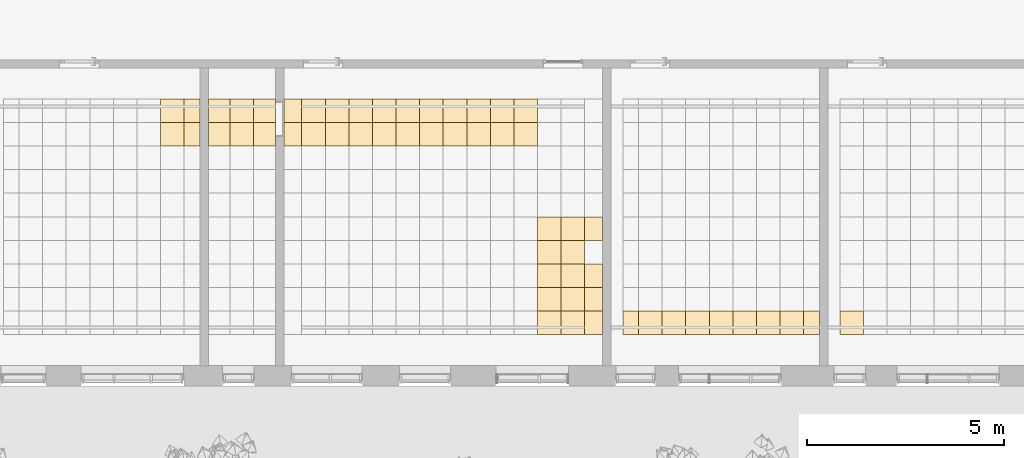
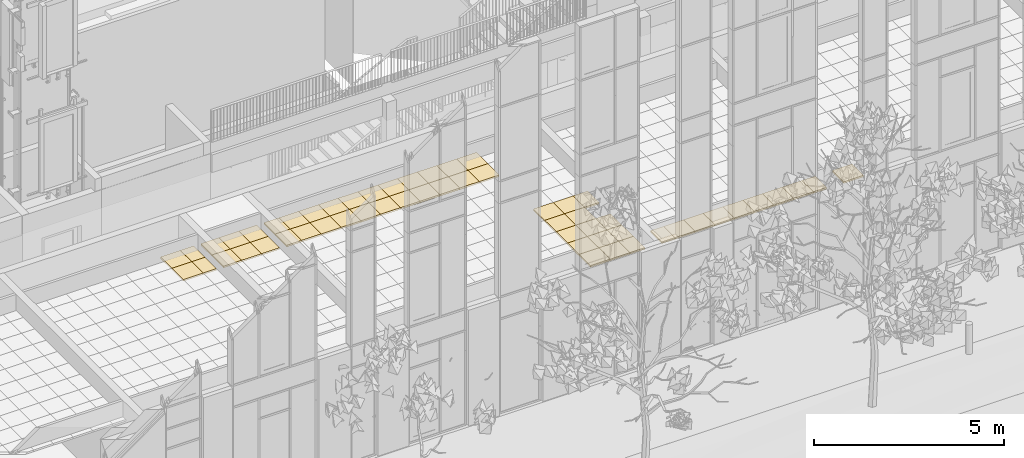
# One storey, part 191 of 246: 56 coverings.
"""IFC2X3 building model written with IfcOpenShell, lengths in millimetres."""

from ifc_helpers import new_model, entity, si_unit, converted_unit, derived_unit, money_unit, direction, frame, origin_with_axes, place, context, subcontext, project, spatial, faceted_brep, material, material_list, type_object, element, save


model = new_model("IFC2X3")

# Units and contexts
model_context = context("Model", 3, precision=0.01, world=origin_with_axes(), true_north=direction((0.0, 1.0)))
body_context = subcontext(model_context, "Body", "Model", "MODEL_VIEW")
ifc_project = project(units=[si_unit("LENGTHUNIT", "METRE", prefix="MILLI"), si_unit("AREAUNIT", "SQUARE_METRE"), si_unit("VOLUMEUNIT", "CUBIC_METRE"), converted_unit("PLANEANGLEUNIT", "DEGREE", entity("IfcPlaneAngleMeasure", 0.0174532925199), si_unit("PLANEANGLEUNIT", "RADIAN"), dimensions=[0, 0, 0, 0, 0, 0, 0]), si_unit("SOLIDANGLEUNIT", "STERADIAN"), money_unit("EUR"), converted_unit("TIMEUNIT", "Year", entity("IfcTimeMeasure", 31556926.0), si_unit("TIMEUNIT", "SECOND"), dimensions=[0, 0, 1, 0, 0, 0, 0]), si_unit("MASSUNIT", "GRAM", prefix="KILO"), si_unit("THERMODYNAMICTEMPERATUREUNIT", "DEGREE_CELSIUS"), si_unit("LUMINOUSINTENSITYUNIT", "LUMEN"), si_unit("ENERGYUNIT", "JOULE", prefix="MEGA"), derived_unit("THERMALCONDUCTANCEUNIT", [(si_unit("POWERUNIT", "WATT"), 1), (si_unit("LENGTHUNIT", "METRE"), -1), (si_unit("THERMODYNAMICTEMPERATUREUNIT", "KELVIN"), -1)]), derived_unit("SPECIFICHEATCAPACITYUNIT", [(si_unit("ENERGYUNIT", "JOULE"), 1), (si_unit("MASSUNIT", "GRAM", prefix="KILO"), -1), (si_unit("THERMODYNAMICTEMPERATUREUNIT", "KELVIN"), -1)]), derived_unit("MASSDENSITYUNIT", [(si_unit("MASSUNIT", "GRAM", prefix="KILO"), 1), (si_unit("VOLUMEUNIT", "CUBIC_METRE"), -1)])], contexts=[model_context])

# Site, building, storey
site_placement = place(None, origin_with_axes())
site = spatial("IfcSite", under=ifc_project, at=site_placement, Name="L.Koidula tn 11b", CompositionType="ELEMENT")
building_placement = place(site_placement, origin_with_axes())
building = spatial("IfcBuilding", under=site, at=building_placement, Name="Rakvere Riigigümnaasium", CompositionType="ELEMENT")
storey_placement = place(building_placement, origin_with_axes())
storey = spatial("IfcBuildingStorey", under=building, at=storey_placement, Name="1.korrus 0,00", CompositionType="ELEMENT", Elevation=0.0)

# Coverings
ifc_material_1 = material(Name="Karkass")
ifc_material_2 = material(Name="Kipsplaat")
ifc_material_list = material_list([ifc_material_1, ifc_material_2])
covering_type = type_object("IfcCoveringType", Name="SA-LV-Kips-moodul 55", PredefinedType="CEILING")
covering_1_placement = place(storey_placement, frame((50789.9766386, 11690.4544728, 2750.0), z_axis=(0.0, 0.0, 1.0), x_axis=(1.0, 0.0, 0.0)))
element("IfcCovering", 1, at=covering_1_placement, inside=storey, type_object=covering_type, material=ifc_material_list, Name="L-03", PredefinedType="CEILING", context=body_context, shape_type="Brep", body=[
    faceted_brep([(550.0, 0.0, 12.5), (550.0, 0.0, 54.5), (0.0, 0.0, 54.5), (0.0, 0.0, 12.5), (550.0, 600.0, 12.5), (550.0, 600.0, 54.5), (0.0, 600.0, 54.5), (0.0, 600.0, 12.5)], [[[0, 1, 2, 3]], [[4, 5, 1, 0]], [[2, 1, 5, 6]], [[3, 2, 6, 7]], [[3, 7, 4, 0]], [[7, 6, 5, 4]]]),
    faceted_brep([(0.0, 0.0, 0.0), (550.0, 0.0, 0.0), (550.0, 0.0, 12.5), (0.0, 0.0, 12.5), (0.0, 600.0, 0.0), (550.0, 600.0, 0.0), (550.0, 600.0, 12.5), (0.0, 600.0, 12.5)], [[[0, 1, 2, 3]], [[0, 4, 5, 1]], [[1, 5, 6, 2]], [[3, 2, 6, 7]], [[4, 0, 3, 7]], [[5, 4, 7, 6]]]),
])
for number, where, z_axis, x_axis, name in (
    (2, (51339.9766386, 11690.4544728, 2750.0), (0.0, 0.0, 1.0), (1.0, 0.0, 0.0), "L-03"),
    (3, (51339.9766386, 11090.4544728, 2750.0), (0.0, 0.0, 1.0), (1.0, 0.0, 0.0), "L-03"),
):
    element("IfcCovering", number, at=place(storey_placement, frame(where, z_axis=z_axis, x_axis=x_axis)), inside=storey, type_object=covering_type, material=ifc_material_list, Name=name, PredefinedType="CEILING", context=body_context, shape_type="Brep", body=[
        faceted_brep([(600.0, 0.0, 12.5), (600.0, 0.0, 54.5), (0.0, 0.0, 54.5), (0.0, 0.0, 12.5), (600.0, 600.0, 12.5), (600.0, 600.0, 54.5), (0.0, 600.0, 54.5), (0.0, 600.0, 12.5)], [[[0, 1, 2, 3]], [[4, 5, 1, 0]], [[2, 1, 5, 6]], [[3, 2, 6, 7]], [[3, 7, 4, 0]], [[7, 6, 5, 4]]]),
        faceted_brep([(0.0, 0.0, 0.0), (600.0, 0.0, 0.0), (600.0, 0.0, 12.5), (0.0, 0.0, 12.5), (0.0, 600.0, 0.0), (600.0, 600.0, 0.0), (600.0, 600.0, 12.5), (0.0, 600.0, 12.5)], [[[0, 1, 2, 3]], [[0, 4, 5, 1]], [[1, 5, 6, 2]], [[3, 2, 6, 7]], [[4, 0, 3, 7]], [[5, 4, 7, 6]]]),
    ])
for number, where, z_axis, x_axis, name in (
    (4, (50789.9766386, 11090.4544728, 2750.0), (0.0, 0.0, 1.0), (1.0, 0.0, 0.0), "L-03"),
    (5, (51939.9766386, 11690.4544728, 2750.0), (0.0, 0.0, 1.0), (1.0, 0.0, 0.0), "L-03"),
    (6, (51939.9766386, 11090.4544728, 2750.0), (0.0, 0.0, 1.0), (1.0, 0.0, 0.0), "L-03"),
):
    element("IfcCovering", number, at=place(storey_placement, frame(where, z_axis=z_axis, x_axis=x_axis)), inside=storey, type_object=covering_type, material=ifc_material_list, Name=name, PredefinedType="CEILING", context=body_context, shape_type="Brep", body=[
        faceted_brep([(550.0, 0.0, 12.5), (550.0, 0.0, 54.5), (0.0, 0.0, 54.5), (0.0, 0.0, 12.5), (550.0, 600.0, 12.5), (550.0, 600.0, 54.5), (0.0, 600.0, 54.5), (0.0, 600.0, 12.5)], [[[0, 1, 2, 3]], [[4, 5, 1, 0]], [[2, 1, 5, 6]], [[3, 2, 6, 7]], [[3, 7, 4, 0]], [[7, 6, 5, 4]]]),
        faceted_brep([(0.0, 0.0, 0.0), (550.0, 0.0, 0.0), (550.0, 0.0, 12.5), (0.0, 0.0, 12.5), (0.0, 600.0, 0.0), (550.0, 600.0, 0.0), (550.0, 600.0, 12.5), (0.0, 600.0, 12.5)], [[[0, 1, 2, 3]], [[0, 4, 5, 1]], [[1, 5, 6, 2]], [[3, 2, 6, 7]], [[4, 0, 3, 7]], [[5, 4, 7, 6]]]),
    ])
for number, where, z_axis, x_axis, name in (
    (7, (49569.6840899, 11090.4535941, 2750.0), (0.0, 0.0, 1.0), (1.0, 0.0, 0.0), "L-03"),
    (8, (49569.6840899, 11690.4535941, 2750.0), (0.0, 0.0, 1.0), (1.0, 0.0, 0.0), "L-03"),
):
    element("IfcCovering", number, at=place(storey_placement, frame(where, z_axis=z_axis, x_axis=x_axis)), inside=storey, type_object=covering_type, material=ifc_material_list, Name=name, PredefinedType="CEILING", context=body_context, shape_type="Brep", body=[
        faceted_brep([(599.999948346, 0.0, 12.5), (599.999948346, 0.0, 54.5), (0.0, 0.0, 54.5), (0.0, 0.0, 12.5), (599.999948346, 600.0, 12.5), (599.999948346, 600.0, 54.5), (0.0, 600.0, 54.5), (0.0, 600.0, 12.5)], [[[0, 1, 2, 3]], [[4, 5, 1, 0]], [[2, 1, 5, 6]], [[3, 2, 6, 7]], [[3, 7, 4, 0]], [[7, 6, 5, 4]]]),
        faceted_brep([(0.0, 0.0, 0.0), (599.999948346, 0.0, 0.0), (599.999948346, 0.0, 12.5), (0.0, 0.0, 12.5), (0.0, 600.0, 0.0), (599.999948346, 600.0, 0.0), (599.999948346, 600.0, 12.5), (0.0, 600.0, 12.5)], [[[0, 1, 2, 3]], [[0, 4, 5, 1]], [[1, 5, 6, 2]], [[3, 2, 6, 7]], [[4, 0, 3, 7]], [[5, 4, 7, 6]]]),
    ])
for number, where, z_axis, x_axis, name in (
    (9, (50169.6840382, 11090.4535941, 2750.0), (0.0, 0.0, 1.0), (1.0, 0.0, 0.0), "L-03"),
    (10, (50169.6840382, 11690.4535941, 2750.0), (0.0, 0.0, 1.0), (1.0, 0.0, 0.0), "L-03"),
):
    element("IfcCovering", number, at=place(storey_placement, frame(where, z_axis=z_axis, x_axis=x_axis)), inside=storey, type_object=covering_type, material=ifc_material_list, Name=name, PredefinedType="CEILING", context=body_context, shape_type="Brep", body=[
        faceted_brep([(399.999039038, 0.0, 12.5), (399.999039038, 0.0, 54.5), (0.0, 0.0, 54.5), (0.0, 0.0, 12.5), (399.999039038, 600.0, 12.5), (399.999039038, 600.0, 54.5), (0.0, 600.0, 54.5), (0.0, 600.0, 12.5)], [[[0, 1, 2, 3]], [[4, 5, 1, 0]], [[2, 1, 5, 6]], [[3, 2, 6, 7]], [[3, 7, 4, 0]], [[7, 6, 5, 4]]]),
        faceted_brep([(0.0, 0.0, 0.0), (399.999039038, 0.0, 0.0), (399.999039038, 0.0, 12.5), (0.0, 0.0, 12.5), (0.0, 600.0, 0.0), (399.999039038, 600.0, 0.0), (399.999039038, 600.0, 12.5), (0.0, 600.0, 12.5)], [[[0, 1, 2, 3]], [[0, 4, 5, 1]], [[1, 5, 6, 2]], [[3, 2, 6, 7]], [[4, 0, 3, 7]], [[5, 4, 7, 6]]]),
    ])
for number, where, z_axis, x_axis, name in (
    (11, (53159.6754629, 11090.4535941, 2750.0), (0.0, 0.0, 1.0), (1.0, 0.0, 0.0), "L-03"),
    (12, (53159.6754629, 11690.4535941, 2750.0), (0.0, 0.0, 1.0), (1.0, 0.0, 0.0), "L-03"),
):
    element("IfcCovering", number, at=place(storey_placement, frame(where, z_axis=z_axis, x_axis=x_axis)), inside=storey, type_object=covering_type, material=ifc_material_list, Name=name, PredefinedType="CEILING", context=body_context, shape_type="Brep", body=[
        faceted_brep([(599.999948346, 0.0, 12.5), (599.999948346, 0.0, 54.5), (0.0, 0.0, 54.5), (0.0, 0.0, 12.5), (599.999948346, 600.0, 12.5), (599.999948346, 600.0, 54.5), (0.0, 600.0, 54.5), (0.0, 600.0, 12.5)], [[[0, 1, 2, 3]], [[4, 5, 1, 0]], [[2, 1, 5, 6]], [[3, 2, 6, 7]], [[3, 7, 4, 0]], [[7, 6, 5, 4]]]),
        faceted_brep([(0.0, 0.0, 0.0), (599.999948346, 0.0, 0.0), (599.999948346, 0.0, 12.5), (0.0, 0.0, 12.5), (0.0, 600.0, 0.0), (599.999948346, 600.0, 0.0), (599.999948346, 600.0, 12.5), (0.0, 600.0, 12.5)], [[[0, 1, 2, 3]], [[0, 4, 5, 1]], [[1, 5, 6, 2]], [[3, 2, 6, 7]], [[4, 0, 3, 7]], [[5, 4, 7, 6]]]),
    ])
for number, where, z_axis, x_axis, name in (
    (13, (52709.9766386, 11090.4535941, 2750.0), (0.0, 0.0, 1.0), (1.0, 0.0, 0.0), "L-03"),
    (14, (52709.9766386, 11690.4535941, 2750.0), (0.0, 0.0, 1.0), (1.0, 0.0, 0.0), "L-03"),
):
    element("IfcCovering", number, at=place(storey_placement, frame(where, z_axis=z_axis, x_axis=x_axis)), inside=storey, type_object=covering_type, material=ifc_material_list, Name=name, PredefinedType="CEILING", context=body_context, shape_type="Brep", body=[
        faceted_brep([(449.698824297, 0.0, 12.5), (449.698824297, 0.0, 54.5), (0.0, 0.0, 54.5), (0.0, 0.0, 12.5), (449.698824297, 600.0, 12.5), (449.698824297, 600.0, 54.5), (0.0, 600.0, 54.5), (0.0, 600.0, 12.5)], [[[0, 1, 2, 3]], [[4, 5, 1, 0]], [[2, 1, 5, 6]], [[3, 2, 6, 7]], [[3, 7, 4, 0]], [[7, 6, 5, 4]]]),
        faceted_brep([(0.0, 0.0, 0.0), (449.698824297, 0.0, 0.0), (449.698824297, 0.0, 12.5), (0.0, 0.0, 12.5), (0.0, 600.0, 0.0), (449.698824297, 600.0, 0.0), (449.698824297, 600.0, 12.5), (0.0, 600.0, 12.5)], [[[0, 1, 2, 3]], [[0, 4, 5, 1]], [[1, 5, 6, 2]], [[3, 2, 6, 7]], [[4, 0, 3, 7]], [[5, 4, 7, 6]]]),
    ])
for number, where, z_axis, x_axis, name in (
    (15, (54359.6754112, 11090.4535941, 2750.0), (0.0, 0.0, 1.0), (1.0, 0.0, 0.0), "L-03"),
    (16, (54359.6754112, 11690.4535941, 2750.0), (0.0, 0.0, 1.0), (1.0, 0.0, 0.0), "L-03"),
):
    element("IfcCovering", number, at=place(storey_placement, frame(where, z_axis=z_axis, x_axis=x_axis)), inside=storey, type_object=covering_type, material=ifc_material_list, Name=name, PredefinedType="CEILING", context=body_context, shape_type="Brep", body=[
        faceted_brep([(599.999948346, 0.0, 12.5), (599.999948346, 0.0, 54.5), (0.0, 0.0, 54.5), (0.0, 0.0, 12.5), (599.999948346, 600.0, 12.5), (599.999948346, 600.0, 54.5), (0.0, 600.0, 54.5), (0.0, 600.0, 12.5)], [[[0, 1, 2, 3]], [[4, 5, 1, 0]], [[2, 1, 5, 6]], [[3, 2, 6, 7]], [[3, 7, 4, 0]], [[7, 6, 5, 4]]]),
        faceted_brep([(0.0, 0.0, 0.0), (599.999948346, 0.0, 0.0), (599.999948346, 0.0, 12.5), (0.0, 0.0, 12.5), (0.0, 600.0, 0.0), (599.999948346, 600.0, 0.0), (599.999948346, 600.0, 12.5), (0.0, 600.0, 12.5)], [[[0, 1, 2, 3]], [[0, 4, 5, 1]], [[1, 5, 6, 2]], [[3, 2, 6, 7]], [[4, 0, 3, 7]], [[5, 4, 7, 6]]]),
    ])
for number, where, z_axis, x_axis, name in (
    (17, (53759.6754112, 11090.4535941, 2750.0), (0.0, 0.0, 1.0), (1.0, 0.0, 0.0), "L-03"),
    (18, (53759.6754112, 11690.4535941, 2750.0), (0.0, 0.0, 1.0), (1.0, 0.0, 0.0), "L-03"),
):
    element("IfcCovering", number, at=place(storey_placement, frame(where, z_axis=z_axis, x_axis=x_axis)), inside=storey, type_object=covering_type, material=ifc_material_list, Name=name, PredefinedType="CEILING", context=body_context, shape_type="Brep", body=[
        faceted_brep([(600.0, 0.0, 12.5), (600.0, 0.0, 54.5), (0.0, 0.0, 54.5), (0.0, 0.0, 12.5), (600.0, 600.0, 12.5), (600.0, 600.0, 54.5), (0.0, 600.0, 54.5), (0.0, 600.0, 12.5)], [[[0, 1, 2, 3]], [[4, 5, 1, 0]], [[2, 1, 5, 6]], [[3, 2, 6, 7]], [[3, 7, 4, 0]], [[7, 6, 5, 4]]]),
        faceted_brep([(0.0, 0.0, 0.0), (600.0, 0.0, 0.0), (600.0, 0.0, 12.5), (0.0, 0.0, 12.5), (0.0, 600.0, 0.0), (600.0, 600.0, 0.0), (600.0, 600.0, 12.5), (0.0, 600.0, 12.5)], [[[0, 1, 2, 3]], [[0, 4, 5, 1]], [[1, 5, 6, 2]], [[3, 2, 6, 7]], [[4, 0, 3, 7]], [[5, 4, 7, 6]]]),
    ])
for number, where, z_axis, x_axis, name in (
    (19, (55559.6753595, 11090.4535941, 2750.0), (0.0, 0.0, 1.0), (1.0, 0.0, 0.0), "L-03"),
    (20, (55559.6753595, 11690.4535941, 2750.0), (0.0, 0.0, 1.0), (1.0, 0.0, 0.0), "L-03"),
):
    element("IfcCovering", number, at=place(storey_placement, frame(where, z_axis=z_axis, x_axis=x_axis)), inside=storey, type_object=covering_type, material=ifc_material_list, Name=name, PredefinedType="CEILING", context=body_context, shape_type="Brep", body=[
        faceted_brep([(599.999948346, 0.0, 12.5), (599.999948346, 0.0, 54.5), (0.0, 0.0, 54.5), (0.0, 0.0, 12.5), (599.999948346, 600.0, 12.5), (599.999948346, 600.0, 54.5), (0.0, 600.0, 54.5), (0.0, 600.0, 12.5)], [[[0, 1, 2, 3]], [[4, 5, 1, 0]], [[2, 1, 5, 6]], [[3, 2, 6, 7]], [[3, 7, 4, 0]], [[7, 6, 5, 4]]]),
        faceted_brep([(0.0, 0.0, 0.0), (599.999948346, 0.0, 0.0), (599.999948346, 0.0, 12.5), (0.0, 0.0, 12.5), (0.0, 600.0, 0.0), (599.999948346, 600.0, 0.0), (599.999948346, 600.0, 12.5), (0.0, 600.0, 12.5)], [[[0, 1, 2, 3]], [[0, 4, 5, 1]], [[1, 5, 6, 2]], [[3, 2, 6, 7]], [[4, 0, 3, 7]], [[5, 4, 7, 6]]]),
    ])
for number, where, z_axis, x_axis, name in (
    (21, (54959.6753595, 11090.4535941, 2750.0), (0.0, 0.0, 1.0), (1.0, 0.0, 0.0), "L-03"),
    (22, (54959.6753595, 11690.4535941, 2750.0), (0.0, 0.0, 1.0), (1.0, 0.0, 0.0), "L-03"),
):
    element("IfcCovering", number, at=place(storey_placement, frame(where, z_axis=z_axis, x_axis=x_axis)), inside=storey, type_object=covering_type, material=ifc_material_list, Name=name, PredefinedType="CEILING", context=body_context, shape_type="Brep", body=[
        faceted_brep([(600.0, 0.0, 12.5), (600.0, 0.0, 54.5), (0.0, 0.0, 54.5), (0.0, 0.0, 12.5), (600.0, 600.0, 12.5), (600.0, 600.0, 54.5), (0.0, 600.0, 54.5), (0.0, 600.0, 12.5)], [[[0, 1, 2, 3]], [[4, 5, 1, 0]], [[2, 1, 5, 6]], [[3, 2, 6, 7]], [[3, 7, 4, 0]], [[7, 6, 5, 4]]]),
        faceted_brep([(0.0, 0.0, 0.0), (600.0, 0.0, 0.0), (600.0, 0.0, 12.5), (0.0, 0.0, 12.5), (0.0, 600.0, 0.0), (600.0, 600.0, 0.0), (600.0, 600.0, 12.5), (0.0, 600.0, 12.5)], [[[0, 1, 2, 3]], [[0, 4, 5, 1]], [[1, 5, 6, 2]], [[3, 2, 6, 7]], [[4, 0, 3, 7]], [[5, 4, 7, 6]]]),
    ])
for number, where, z_axis, x_axis, name in (
    (23, (56759.6753079, 11090.4535941, 2750.0), (0.0, 0.0, 1.0), (1.0, 0.0, 0.0), "L-03"),
    (24, (56759.6753079, 11690.4535941, 2750.0), (0.0, 0.0, 1.0), (1.0, 0.0, 0.0), "L-03"),
):
    element("IfcCovering", number, at=place(storey_placement, frame(where, z_axis=z_axis, x_axis=x_axis)), inside=storey, type_object=covering_type, material=ifc_material_list, Name=name, PredefinedType="CEILING", context=body_context, shape_type="Brep", body=[
        faceted_brep([(599.999948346, 0.0, 12.5), (599.999948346, 0.0, 54.5), (0.0, 0.0, 54.5), (0.0, 0.0, 12.5), (599.999948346, 600.0, 12.5), (599.999948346, 600.0, 54.5), (0.0, 600.0, 54.5), (0.0, 600.0, 12.5)], [[[0, 1, 2, 3]], [[4, 5, 1, 0]], [[2, 1, 5, 6]], [[3, 2, 6, 7]], [[3, 7, 4, 0]], [[7, 6, 5, 4]]]),
        faceted_brep([(0.0, 0.0, 0.0), (599.999948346, 0.0, 0.0), (599.999948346, 0.0, 12.5), (0.0, 0.0, 12.5), (0.0, 600.0, 0.0), (599.999948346, 600.0, 0.0), (599.999948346, 600.0, 12.5), (0.0, 600.0, 12.5)], [[[0, 1, 2, 3]], [[0, 4, 5, 1]], [[1, 5, 6, 2]], [[3, 2, 6, 7]], [[4, 0, 3, 7]], [[5, 4, 7, 6]]]),
    ])
for number, where, z_axis, x_axis, name in (
    (25, (56159.6753079, 11090.4535941, 2750.0), (0.0, 0.0, 1.0), (1.0, 0.0, 0.0), "L-03"),
    (26, (56159.6753079, 11690.4535941, 2750.0), (0.0, 0.0, 1.0), (1.0, 0.0, 0.0), "L-03"),
):
    element("IfcCovering", number, at=place(storey_placement, frame(where, z_axis=z_axis, x_axis=x_axis)), inside=storey, type_object=covering_type, material=ifc_material_list, Name=name, PredefinedType="CEILING", context=body_context, shape_type="Brep", body=[
        faceted_brep([(600.0, 0.0, 12.5), (600.0, 0.0, 54.5), (0.0, 0.0, 54.5), (0.0, 0.0, 12.5), (600.0, 600.0, 12.5), (600.0, 600.0, 54.5), (0.0, 600.0, 54.5), (0.0, 600.0, 12.5)], [[[0, 1, 2, 3]], [[4, 5, 1, 0]], [[2, 1, 5, 6]], [[3, 2, 6, 7]], [[3, 7, 4, 0]], [[7, 6, 5, 4]]]),
        faceted_brep([(0.0, 0.0, 0.0), (600.0, 0.0, 0.0), (600.0, 0.0, 12.5), (0.0, 0.0, 12.5), (0.0, 600.0, 0.0), (600.0, 600.0, 0.0), (600.0, 600.0, 12.5), (0.0, 600.0, 12.5)], [[[0, 1, 2, 3]], [[0, 4, 5, 1]], [[1, 5, 6, 2]], [[3, 2, 6, 7]], [[4, 0, 3, 7]], [[5, 4, 7, 6]]]),
    ])
for number, where, z_axis, x_axis, name in (
    (27, (57959.6752562, 11090.4535941, 2750.0), (0.0, 0.0, 1.0), (1.0, 0.0, 0.0), "L-03"),
    (28, (57959.6752562, 11690.4535941, 2750.0), (0.0, 0.0, 1.0), (1.0, 0.0, 0.0), "L-03"),
):
    element("IfcCovering", number, at=place(storey_placement, frame(where, z_axis=z_axis, x_axis=x_axis)), inside=storey, type_object=covering_type, material=ifc_material_list, Name=name, PredefinedType="CEILING", context=body_context, shape_type="Brep", body=[
        faceted_brep([(599.999948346, 0.0, 12.5), (599.999948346, 0.0, 54.5), (0.0, 0.0, 54.5), (0.0, 0.0, 12.5), (599.999948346, 600.0, 12.5), (599.999948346, 600.0, 54.5), (0.0, 600.0, 54.5), (0.0, 600.0, 12.5)], [[[0, 1, 2, 3]], [[4, 5, 1, 0]], [[2, 1, 5, 6]], [[3, 2, 6, 7]], [[3, 7, 4, 0]], [[7, 6, 5, 4]]]),
        faceted_brep([(0.0, 0.0, 0.0), (599.999948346, 0.0, 0.0), (599.999948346, 0.0, 12.5), (0.0, 0.0, 12.5), (0.0, 600.0, 0.0), (599.999948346, 600.0, 0.0), (599.999948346, 600.0, 12.5), (0.0, 600.0, 12.5)], [[[0, 1, 2, 3]], [[0, 4, 5, 1]], [[1, 5, 6, 2]], [[3, 2, 6, 7]], [[4, 0, 3, 7]], [[5, 4, 7, 6]]]),
    ])
for number, where, z_axis, x_axis, name in (
    (29, (57359.6752562, 11090.4535941, 2750.0), (0.0, 0.0, 1.0), (1.0, 0.0, 0.0), "L-03"),
    (30, (57359.6752562, 11690.4535941, 2750.0), (0.0, 0.0, 1.0), (1.0, 0.0, 0.0), "L-03"),
):
    element("IfcCovering", number, at=place(storey_placement, frame(where, z_axis=z_axis, x_axis=x_axis)), inside=storey, type_object=covering_type, material=ifc_material_list, Name=name, PredefinedType="CEILING", context=body_context, shape_type="Brep", body=[
        faceted_brep([(600.0, 0.0, 12.5), (600.0, 0.0, 54.5), (0.0, 0.0, 54.5), (0.0, 0.0, 12.5), (600.0, 600.0, 12.5), (600.0, 600.0, 54.5), (0.0, 600.0, 54.5), (0.0, 600.0, 12.5)], [[[0, 1, 2, 3]], [[4, 5, 1, 0]], [[2, 1, 5, 6]], [[3, 2, 6, 7]], [[3, 7, 4, 0]], [[7, 6, 5, 4]]]),
        faceted_brep([(0.0, 0.0, 0.0), (600.0, 0.0, 0.0), (600.0, 0.0, 12.5), (0.0, 0.0, 12.5), (0.0, 600.0, 0.0), (600.0, 600.0, 0.0), (600.0, 600.0, 12.5), (0.0, 600.0, 12.5)], [[[0, 1, 2, 3]], [[0, 4, 5, 1]], [[1, 5, 6, 2]], [[3, 2, 6, 7]], [[4, 0, 3, 7]], [[5, 4, 7, 6]]]),
    ])
for number, where, z_axis, x_axis, name in (
    (31, (59159.6752046, 8690.45359412, 2750.0), (0.0, 0.0, 1.0), (1.0, 0.0, 0.0), "L-03"),
    (32, (59159.6752046, 8090.45359412, 2750.0), (0.0, 0.0, 1.0), (1.0, 0.0, 0.0), "L-03"),
    (33, (59159.6752046, 7490.45359412, 2750.0), (0.0, 0.0, 1.0), (1.0, 0.0, 0.0), "L-03"),
    (34, (59159.6752046, 6290.45359412, 2750.0), (0.0, 0.0, 1.0), (1.0, 0.0, 0.0), "L-03"),
    (35, (59159.6752046, 6890.45359412, 2750.0), (0.0, 0.0, 1.0), (1.0, 0.0, 0.0), "L-03"),
):
    element("IfcCovering", number, at=place(storey_placement, frame(where, z_axis=z_axis, x_axis=x_axis)), inside=storey, type_object=covering_type, material=ifc_material_list, Name=name, PredefinedType="CEILING", context=body_context, shape_type="Brep", body=[
        faceted_brep([(599.999948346, 0.0, 12.5), (599.999948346, 0.0, 54.5), (0.0, 0.0, 54.5), (0.0, 0.0, 12.5), (599.999948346, 600.0, 12.5), (599.999948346, 600.0, 54.5), (0.0, 600.0, 54.5), (0.0, 600.0, 12.5)], [[[0, 1, 2, 3]], [[4, 5, 1, 0]], [[2, 1, 5, 6]], [[3, 2, 6, 7]], [[3, 7, 4, 0]], [[7, 6, 5, 4]]]),
        faceted_brep([(0.0, 0.0, 0.0), (599.999948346, 0.0, 0.0), (599.999948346, 0.0, 12.5), (0.0, 0.0, 12.5), (0.0, 600.0, 0.0), (599.999948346, 600.0, 0.0), (599.999948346, 600.0, 12.5), (0.0, 600.0, 12.5)], [[[0, 1, 2, 3]], [[0, 4, 5, 1]], [[1, 5, 6, 2]], [[3, 2, 6, 7]], [[4, 0, 3, 7]], [[5, 4, 7, 6]]]),
    ])
for number, where, z_axis, x_axis, name in (
    (36, (58559.6752046, 11090.4535941, 2750.0), (0.0, 0.0, 1.0), (1.0, 0.0, 0.0), "L-03"),
    (37, (58559.6752046, 11690.4535941, 2750.0), (0.0, 0.0, 1.0), (1.0, 0.0, 0.0), "L-03"),
):
    element("IfcCovering", number, at=place(storey_placement, frame(where, z_axis=z_axis, x_axis=x_axis)), inside=storey, type_object=covering_type, material=ifc_material_list, Name=name, PredefinedType="CEILING", context=body_context, shape_type="Brep", body=[
        faceted_brep([(600.0, 0.0, 12.5), (600.0, 0.0, 54.5), (0.0, 0.0, 54.5), (0.0, 0.0, 12.5), (600.0, 600.0, 12.5), (600.0, 600.0, 54.5), (0.0, 600.0, 54.5), (0.0, 600.0, 12.5)], [[[0, 1, 2, 3]], [[4, 5, 1, 0]], [[2, 1, 5, 6]], [[3, 2, 6, 7]], [[3, 7, 4, 0]], [[7, 6, 5, 4]]]),
        faceted_brep([(0.0, 0.0, 0.0), (600.0, 0.0, 0.0), (600.0, 0.0, 12.5), (0.0, 0.0, 12.5), (0.0, 600.0, 0.0), (600.0, 600.0, 0.0), (600.0, 600.0, 12.5), (0.0, 600.0, 12.5)], [[[0, 1, 2, 3]], [[0, 4, 5, 1]], [[1, 5, 6, 2]], [[3, 2, 6, 7]], [[4, 0, 3, 7]], [[5, 4, 7, 6]]]),
    ])
for number, where, z_axis, x_axis, name in (
    (38, (60359.6751529, 8690.45359412, 2750.0), (0.0, 0.0, 1.0), (1.0, 0.0, 0.0), "L-03"),
    (39, (60359.6751529, 7490.45359412, 2750.0), (0.0, 0.0, 1.0), (1.0, 0.0, 0.0), "L-03"),
    (40, (60359.6751529, 6290.45359412, 2750.0), (0.0, 0.0, 1.0), (1.0, 0.0, 0.0), "L-03"),
    (41, (60359.6751529, 6890.45359412, 2750.0), (0.0, 0.0, 1.0), (1.0, 0.0, 0.0), "L-03"),
):
    element("IfcCovering", number, at=place(storey_placement, frame(where, z_axis=z_axis, x_axis=x_axis)), inside=storey, type_object=covering_type, material=ifc_material_list, Name=name, PredefinedType="CEILING", context=body_context, shape_type="Brep", body=[
        faceted_brep([(450.341138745, 0.0, 12.5), (450.341138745, 0.0, 54.5), (0.0, 0.0, 54.5), (0.0, 0.0, 12.5), (450.341138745, 600.0, 12.5), (450.341138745, 600.0, 54.5), (0.0, 600.0, 54.5), (0.0, 600.0, 12.5)], [[[0, 1, 2, 3]], [[4, 5, 1, 0]], [[2, 1, 5, 6]], [[3, 2, 6, 7]], [[3, 7, 4, 0]], [[7, 6, 5, 4]]]),
        faceted_brep([(0.0, 0.0, 0.0), (450.341138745, 0.0, 0.0), (450.341138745, 0.0, 12.5), (0.0, 0.0, 12.5), (0.0, 600.0, 0.0), (450.341138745, 600.0, 0.0), (450.341138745, 600.0, 12.5), (0.0, 600.0, 12.5)], [[[0, 1, 2, 3]], [[0, 4, 5, 1]], [[1, 5, 6, 2]], [[3, 2, 6, 7]], [[4, 0, 3, 7]], [[5, 4, 7, 6]]]),
    ])
for number, where, z_axis, x_axis, name in (
    (42, (59759.6751529, 7490.45359412, 2750.0), (0.0, 0.0, 1.0), (1.0, 0.0, 0.0), "L-03"),
    (43, (59759.6751529, 8090.45359412, 2750.0), (0.0, 0.0, 1.0), (1.0, 0.0, 0.0), "L-03"),
    (44, (59759.6751529, 8690.45359412, 2750.0), (0.0, 0.0, 1.0), (1.0, 0.0, 0.0), "L-03"),
    (45, (59759.6751529, 6290.45359412, 2750.0), (0.0, 0.0, 1.0), (1.0, 0.0, 0.0), "L-03"),
    (46, (59759.6751529, 6890.45359412, 2750.0), (0.0, 0.0, 1.0), (1.0, 0.0, 0.0), "L-03"),
):
    element("IfcCovering", number, at=place(storey_placement, frame(where, z_axis=z_axis, x_axis=x_axis)), inside=storey, type_object=covering_type, material=ifc_material_list, Name=name, PredefinedType="CEILING", context=body_context, shape_type="Brep", body=[
        faceted_brep([(600.0, 0.0, 12.5), (600.0, 0.0, 54.5), (0.0, 0.0, 54.5), (0.0, 0.0, 12.5), (600.0, 600.0, 12.5), (600.0, 600.0, 54.5), (0.0, 600.0, 54.5), (0.0, 600.0, 12.5)], [[[0, 1, 2, 3]], [[4, 5, 1, 0]], [[2, 1, 5, 6]], [[3, 2, 6, 7]], [[3, 7, 4, 0]], [[7, 6, 5, 4]]]),
        faceted_brep([(0.0, 0.0, 0.0), (600.0, 0.0, 0.0), (600.0, 0.0, 12.5), (0.0, 0.0, 12.5), (0.0, 600.0, 0.0), (600.0, 600.0, 0.0), (600.0, 600.0, 12.5), (0.0, 600.0, 12.5)], [[[0, 1, 2, 3]], [[0, 4, 5, 1]], [[1, 5, 6, 2]], [[3, 2, 6, 7]], [[4, 0, 3, 7]], [[5, 4, 7, 6]]]),
    ])
covering_2_placement = place(storey_placement, frame((61729.718917, 6290.45359412, 2750.0), z_axis=(0.0, 0.0, 1.0), x_axis=(1.0, 0.0, 0.0)))
element("IfcCovering", 47, at=covering_2_placement, inside=storey, type_object=covering_type, material=ifc_material_list, Name="L-03", PredefinedType="CEILING", context=body_context, shape_type="Brep", body=[
    faceted_brep([(599.999948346, 0.0, 12.5), (599.999948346, 0.0, 54.5), (0.0, 0.0, 54.5), (0.0, 0.0, 12.5), (599.999948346, 600.0, 12.5), (599.999948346, 600.0, 54.5), (0.0, 600.0, 54.5), (0.0, 600.0, 12.5)], [[[0, 1, 2, 3]], [[4, 5, 1, 0]], [[2, 1, 5, 6]], [[3, 2, 6, 7]], [[3, 7, 4, 0]], [[7, 6, 5, 4]]]),
    faceted_brep([(0.0, 0.0, 0.0), (599.999948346, 0.0, 0.0), (599.999948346, 0.0, 12.5), (0.0, 0.0, 12.5), (0.0, 600.0, 0.0), (599.999948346, 600.0, 0.0), (599.999948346, 600.0, 12.5), (0.0, 600.0, 12.5)], [[[0, 1, 2, 3]], [[0, 4, 5, 1]], [[1, 5, 6, 2]], [[3, 2, 6, 7]], [[4, 0, 3, 7]], [[5, 4, 7, 6]]]),
])
covering_3_placement = place(storey_placement, frame((61329.7177494, 6290.45359412, 2750.0), z_axis=(0.0, 0.0, 1.0), x_axis=(1.0, 0.0, 0.0)))
element("IfcCovering", 48, at=covering_3_placement, inside=storey, type_object=covering_type, material=ifc_material_list, Name="L-03", PredefinedType="CEILING", context=body_context, shape_type="Brep", body=[
    faceted_brep([(400.001167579, 0.0, 12.5), (400.001167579, 0.0, 54.5), (0.0, 0.0, 54.5), (0.0, 0.0, 12.5), (400.001167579, 600.0, 12.5), (400.001167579, 600.0, 54.5), (0.0, 600.0, 54.5), (0.0, 600.0, 12.5)], [[[0, 1, 2, 3]], [[4, 5, 1, 0]], [[2, 1, 5, 6]], [[3, 2, 6, 7]], [[3, 7, 4, 0]], [[7, 6, 5, 4]]]),
    faceted_brep([(0.0, 0.0, 0.0), (400.001167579, 0.0, 0.0), (400.001167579, 0.0, 12.5), (0.0, 0.0, 12.5), (0.0, 600.0, 0.0), (400.001167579, 600.0, 0.0), (400.001167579, 600.0, 12.5), (0.0, 600.0, 12.5)], [[[0, 1, 2, 3]], [[0, 4, 5, 1]], [[1, 5, 6, 2]], [[3, 2, 6, 7]], [[4, 0, 3, 7]], [[5, 4, 7, 6]]]),
])
covering_4_placement = place(storey_placement, frame((62929.7188653, 6290.45359412, 2750.0), z_axis=(0.0, 0.0, 1.0), x_axis=(1.0, 0.0, 0.0)))
element("IfcCovering", 49, at=covering_4_placement, inside=storey, type_object=covering_type, material=ifc_material_list, Name="L-03", PredefinedType="CEILING", context=body_context, shape_type="Brep", body=[
    faceted_brep([(599.999948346, 0.0, 12.5), (599.999948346, 0.0, 54.5), (0.0, 0.0, 54.5), (0.0, 0.0, 12.5), (599.999948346, 600.0, 12.5), (599.999948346, 600.0, 54.5), (0.0, 600.0, 54.5), (0.0, 600.0, 12.5)], [[[0, 1, 2, 3]], [[4, 5, 1, 0]], [[2, 1, 5, 6]], [[3, 2, 6, 7]], [[3, 7, 4, 0]], [[7, 6, 5, 4]]]),
    faceted_brep([(0.0, 0.0, 0.0), (599.999948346, 0.0, 0.0), (599.999948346, 0.0, 12.5), (0.0, 0.0, 12.5), (0.0, 600.0, 0.0), (599.999948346, 600.0, 0.0), (599.999948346, 600.0, 12.5), (0.0, 600.0, 12.5)], [[[0, 1, 2, 3]], [[0, 4, 5, 1]], [[1, 5, 6, 2]], [[3, 2, 6, 7]], [[4, 0, 3, 7]], [[5, 4, 7, 6]]]),
])
covering_5_placement = place(storey_placement, frame((62329.7188653, 6290.45359412, 2750.0), z_axis=(0.0, 0.0, 1.0), x_axis=(1.0, 0.0, 0.0)))
element("IfcCovering", 50, at=covering_5_placement, inside=storey, type_object=covering_type, material=ifc_material_list, Name="L-03", PredefinedType="CEILING", context=body_context, shape_type="Brep", body=[
    faceted_brep([(600.0, 0.0, 12.5), (600.0, 0.0, 54.5), (0.0, 0.0, 54.5), (0.0, 0.0, 12.5), (600.0, 600.0, 12.5), (600.0, 600.0, 54.5), (0.0, 600.0, 54.5), (0.0, 600.0, 12.5)], [[[0, 1, 2, 3]], [[4, 5, 1, 0]], [[2, 1, 5, 6]], [[3, 2, 6, 7]], [[3, 7, 4, 0]], [[7, 6, 5, 4]]]),
    faceted_brep([(0.0, 0.0, 0.0), (600.0, 0.0, 0.0), (600.0, 0.0, 12.5), (0.0, 0.0, 12.5), (0.0, 600.0, 0.0), (600.0, 600.0, 0.0), (600.0, 600.0, 12.5), (0.0, 600.0, 12.5)], [[[0, 1, 2, 3]], [[0, 4, 5, 1]], [[1, 5, 6, 2]], [[3, 2, 6, 7]], [[4, 0, 3, 7]], [[5, 4, 7, 6]]]),
])
covering_6_placement = place(storey_placement, frame((64129.7188137, 6290.45359412, 2750.0), z_axis=(0.0, 0.0, 1.0), x_axis=(1.0, 0.0, 0.0)))
element("IfcCovering", 51, at=covering_6_placement, inside=storey, type_object=covering_type, material=ifc_material_list, Name="L-03", PredefinedType="CEILING", context=body_context, shape_type="Brep", body=[
    faceted_brep([(599.999948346, 0.0, 12.5), (599.999948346, 0.0, 54.5), (0.0, 0.0, 54.5), (0.0, 0.0, 12.5), (599.999948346, 600.0, 12.5), (599.999948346, 600.0, 54.5), (0.0, 600.0, 54.5), (0.0, 600.0, 12.5)], [[[0, 1, 2, 3]], [[4, 5, 1, 0]], [[2, 1, 5, 6]], [[3, 2, 6, 7]], [[3, 7, 4, 0]], [[7, 6, 5, 4]]]),
    faceted_brep([(0.0, 0.0, 0.0), (599.999948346, 0.0, 0.0), (599.999948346, 0.0, 12.5), (0.0, 0.0, 12.5), (0.0, 600.0, 0.0), (599.999948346, 600.0, 0.0), (599.999948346, 600.0, 12.5), (0.0, 600.0, 12.5)], [[[0, 1, 2, 3]], [[0, 4, 5, 1]], [[1, 5, 6, 2]], [[3, 2, 6, 7]], [[4, 0, 3, 7]], [[5, 4, 7, 6]]]),
])
covering_7_placement = place(storey_placement, frame((63529.7188137, 6290.45359412, 2750.0), z_axis=(0.0, 0.0, 1.0), x_axis=(1.0, 0.0, 0.0)))
element("IfcCovering", 52, at=covering_7_placement, inside=storey, type_object=covering_type, material=ifc_material_list, Name="L-03", PredefinedType="CEILING", context=body_context, shape_type="Brep", body=[
    faceted_brep([(600.0, 0.0, 12.5), (600.0, 0.0, 54.5), (0.0, 0.0, 54.5), (0.0, 0.0, 12.5), (600.0, 600.0, 12.5), (600.0, 600.0, 54.5), (0.0, 600.0, 54.5), (0.0, 600.0, 12.5)], [[[0, 1, 2, 3]], [[4, 5, 1, 0]], [[2, 1, 5, 6]], [[3, 2, 6, 7]], [[3, 7, 4, 0]], [[7, 6, 5, 4]]]),
    faceted_brep([(0.0, 0.0, 0.0), (600.0, 0.0, 0.0), (600.0, 0.0, 12.5), (0.0, 0.0, 12.5), (0.0, 600.0, 0.0), (600.0, 600.0, 0.0), (600.0, 600.0, 12.5), (0.0, 600.0, 12.5)], [[[0, 1, 2, 3]], [[0, 4, 5, 1]], [[1, 5, 6, 2]], [[3, 2, 6, 7]], [[4, 0, 3, 7]], [[5, 4, 7, 6]]]),
])
covering_8_placement = place(storey_placement, frame((65329.718762, 6290.45359412, 2750.0), z_axis=(0.0, 0.0, 1.0), x_axis=(1.0, 0.0, 0.0)))
element("IfcCovering", 53, at=covering_8_placement, inside=storey, type_object=covering_type, material=ifc_material_list, Name="L-03", PredefinedType="CEILING", context=body_context, shape_type="Brep", body=[
    faceted_brep([(599.999948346, 0.0, 12.5), (599.999948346, 0.0, 54.5), (0.0, 0.0, 54.5), (0.0, 0.0, 12.5), (599.999948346, 600.0, 12.5), (599.999948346, 600.0, 54.5), (0.0, 600.0, 54.5), (0.0, 600.0, 12.5)], [[[0, 1, 2, 3]], [[4, 5, 1, 0]], [[2, 1, 5, 6]], [[3, 2, 6, 7]], [[3, 7, 4, 0]], [[7, 6, 5, 4]]]),
    faceted_brep([(0.0, 0.0, 0.0), (599.999948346, 0.0, 0.0), (599.999948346, 0.0, 12.5), (0.0, 0.0, 12.5), (0.0, 600.0, 0.0), (599.999948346, 600.0, 0.0), (599.999948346, 600.0, 12.5), (0.0, 600.0, 12.5)], [[[0, 1, 2, 3]], [[0, 4, 5, 1]], [[1, 5, 6, 2]], [[3, 2, 6, 7]], [[4, 0, 3, 7]], [[5, 4, 7, 6]]]),
])
covering_9_placement = place(storey_placement, frame((64729.718762, 6290.45359412, 2750.0), z_axis=(0.0, 0.0, 1.0), x_axis=(1.0, 0.0, 0.0)))
element("IfcCovering", 54, at=covering_9_placement, inside=storey, type_object=covering_type, material=ifc_material_list, Name="L-03", PredefinedType="CEILING", context=body_context, shape_type="Brep", body=[
    faceted_brep([(600.0, 0.0, 12.5), (600.0, 0.0, 54.5), (0.0, 0.0, 54.5), (0.0, 0.0, 12.5), (600.0, 600.0, 12.5), (600.0, 600.0, 54.5), (0.0, 600.0, 54.5), (0.0, 600.0, 12.5)], [[[0, 1, 2, 3]], [[4, 5, 1, 0]], [[2, 1, 5, 6]], [[3, 2, 6, 7]], [[3, 7, 4, 0]], [[7, 6, 5, 4]]]),
    faceted_brep([(0.0, 0.0, 0.0), (600.0, 0.0, 0.0), (600.0, 0.0, 12.5), (0.0, 0.0, 12.5), (0.0, 600.0, 0.0), (600.0, 600.0, 0.0), (600.0, 600.0, 12.5), (0.0, 600.0, 12.5)], [[[0, 1, 2, 3]], [[0, 4, 5, 1]], [[1, 5, 6, 2]], [[3, 2, 6, 7]], [[4, 0, 3, 7]], [[5, 4, 7, 6]]]),
])
covering_10_placement = place(storey_placement, frame((65929.7187104, 6290.45359412, 2750.0), z_axis=(0.0, 0.0, 1.0), x_axis=(1.0, 0.0, 0.0)))
element("IfcCovering", 55, at=covering_10_placement, inside=storey, type_object=covering_type, material=ifc_material_list, Name="L-03", PredefinedType="CEILING", context=body_context, shape_type="Brep", body=[
    faceted_brep([(399.999039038, 0.0, 12.5), (399.999039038, 0.0, 54.5), (0.0, 0.0, 54.5), (0.0, 0.0, 12.5), (399.999039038, 600.0, 12.5), (399.999039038, 600.0, 54.5), (0.0, 600.0, 54.5), (0.0, 600.0, 12.5)], [[[0, 1, 2, 3]], [[4, 5, 1, 0]], [[2, 1, 5, 6]], [[3, 2, 6, 7]], [[3, 7, 4, 0]], [[7, 6, 5, 4]]]),
    faceted_brep([(0.0, 0.0, 0.0), (399.999039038, 0.0, 0.0), (399.999039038, 0.0, 12.5), (0.0, 0.0, 12.5), (0.0, 600.0, 0.0), (399.999039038, 600.0, 0.0), (399.999039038, 600.0, 12.5), (0.0, 600.0, 12.5)], [[[0, 1, 2, 3]], [[0, 4, 5, 1]], [[1, 5, 6, 2]], [[3, 2, 6, 7]], [[4, 0, 3, 7]], [[5, 4, 7, 6]]]),
])
covering_11_placement = place(storey_placement, frame((66849.7149246, 6290.45359412, 2750.0), z_axis=(0.0, 0.0, 1.0), x_axis=(1.0, 0.0, 0.0)))
element("IfcCovering", 56, at=covering_11_placement, inside=storey, type_object=covering_type, material=ifc_material_list, Name="L-03", PredefinedType="CEILING", context=body_context, shape_type="Brep", body=[
    faceted_brep([(600.000452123, 0.0, 12.5), (600.000452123, 0.0, 54.5), (0.0, 0.0, 54.5), (0.0, 0.0, 12.5), (600.000452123, 600.0, 12.5), (600.000452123, 600.0, 54.5), (0.0, 600.0, 54.5), (0.0, 600.0, 12.5)], [[[0, 1, 2, 3]], [[4, 5, 1, 0]], [[2, 1, 5, 6]], [[3, 2, 6, 7]], [[3, 7, 4, 0]], [[7, 6, 5, 4]]]),
    faceted_brep([(0.0, 0.0, 0.0), (600.000452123, 0.0, 0.0), (600.000452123, 0.0, 12.5), (0.0, 0.0, 12.5), (0.0, 600.0, 0.0), (600.000452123, 600.0, 0.0), (600.000452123, 600.0, 12.5), (0.0, 600.0, 12.5)], [[[0, 1, 2, 3]], [[0, 4, 5, 1]], [[1, 5, 6, 2]], [[3, 2, 6, 7]], [[4, 0, 3, 7]], [[5, 4, 7, 6]]]),
])

save(model, "model.ifc")
